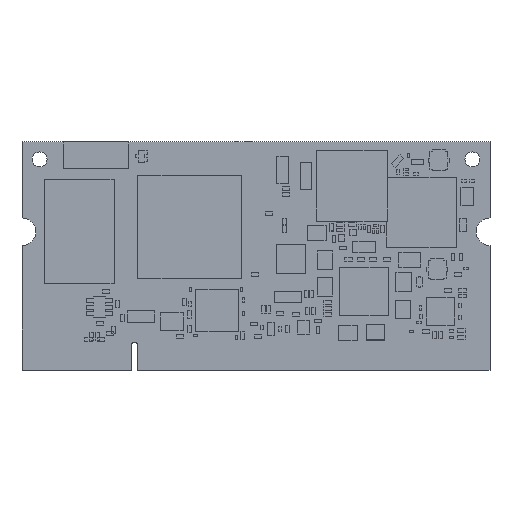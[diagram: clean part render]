
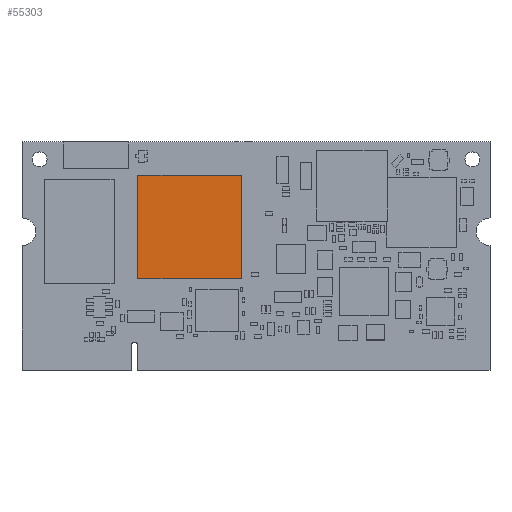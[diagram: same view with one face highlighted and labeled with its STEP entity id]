
A CAD part, top view. The second image highlights one B-rep face of the part: STEP entity #55303.
In plain terms, the highlighted planar face has unit normal (0, 0, 1).
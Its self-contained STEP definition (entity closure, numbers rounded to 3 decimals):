
#720 = CARTESIAN_POINT ( 'NONE',  ( 23.928, 47.168, 2.489 ) ) ;
#7043 = PLANE ( 'NONE',  #20453 ) ;
#7634 = DIRECTION ( 'NONE',  ( 1., 0., 0. ) ) ;
#12059 = EDGE_CURVE ( 'NONE', #36670, #28384, #46917, .T. ) ;
#12179 = CARTESIAN_POINT ( 'NONE',  ( 0., 0., 2.489 ) ) ;
#14058 = VERTEX_POINT ( 'NONE', #18486 ) ;
#14086 = DIRECTION ( 'NONE',  ( 0., -1., 0. ) ) ;
#15138 = ORIENTED_EDGE ( 'NONE', *, *, #12059, .T. ) ;
#16456 = VECTOR ( 'NONE', #32993, 1000. ) ;
#16776 = DIRECTION ( 'NONE',  ( 0., 1., 0. ) ) ;
#18486 = CARTESIAN_POINT ( 'NONE',  ( 38.928, 47.168, 2.489 ) ) ;
#18955 = CARTESIAN_POINT ( 'NONE',  ( 23.928, 62.168, 2.489 ) ) ;
#20453 = AXIS2_PLACEMENT_3D ( 'NONE', #12179, #58654, #7634 ) ;
#24398 = ORIENTED_EDGE ( 'NONE', *, *, #25596, .T. ) ;
#25596 = EDGE_CURVE ( 'NONE', #45135, #36670, #42956, .T. ) ;
#26287 = VECTOR ( 'NONE', #14086, 1000. ) ;
#28384 = VERTEX_POINT ( 'NONE', #720 ) ;
#30101 = VECTOR ( 'NONE', #16776, 1000. ) ;
#32993 = DIRECTION ( 'NONE',  ( 1., 0., 0. ) ) ;
#33544 = EDGE_LOOP ( 'NONE', ( #46721, #38030, #24398, #15138 ) ) ;
#34698 = LINE ( 'NONE', #39877, #30101 ) ;
#34964 = FACE_OUTER_BOUND ( 'NONE', #33544, .T. ) ;
#36670 = VERTEX_POINT ( 'NONE', #44567 ) ;
#37843 = LINE ( 'NONE', #52722, #16456 ) ;
#38030 = ORIENTED_EDGE ( 'NONE', *, *, #54147, .T. ) ;
#39877 = CARTESIAN_POINT ( 'NONE',  ( 38.928, 47.168, 2.489 ) ) ;
#40136 = CARTESIAN_POINT ( 'NONE',  ( 38.928, 62.168, 2.489 ) ) ;
#42810 = VECTOR ( 'NONE', #56887, 1000. ) ;
#42956 = LINE ( 'NONE', #51156, #42810 ) ;
#44567 = CARTESIAN_POINT ( 'NONE',  ( 23.928, 62.168, 2.489 ) ) ;
#45135 = VERTEX_POINT ( 'NONE', #40136 ) ;
#46721 = ORIENTED_EDGE ( 'NONE', *, *, #53532, .T. ) ;
#46917 = LINE ( 'NONE', #18955, #26287 ) ;
#51156 = CARTESIAN_POINT ( 'NONE',  ( 38.928, 62.168, 2.489 ) ) ;
#52722 = CARTESIAN_POINT ( 'NONE',  ( 23.928, 47.168, 2.489 ) ) ;
#53532 = EDGE_CURVE ( 'NONE', #28384, #14058, #37843, .T. ) ;
#54147 = EDGE_CURVE ( 'NONE', #14058, #45135, #34698, .T. ) ;
#55303 = ADVANCED_FACE ( 'NONE', ( #34964 ), #7043, .T. ) ;
#56887 = DIRECTION ( 'NONE',  ( -1., 0., 0. ) ) ;
#58654 = DIRECTION ( 'NONE',  ( 0., 0., 1. ) ) ;
